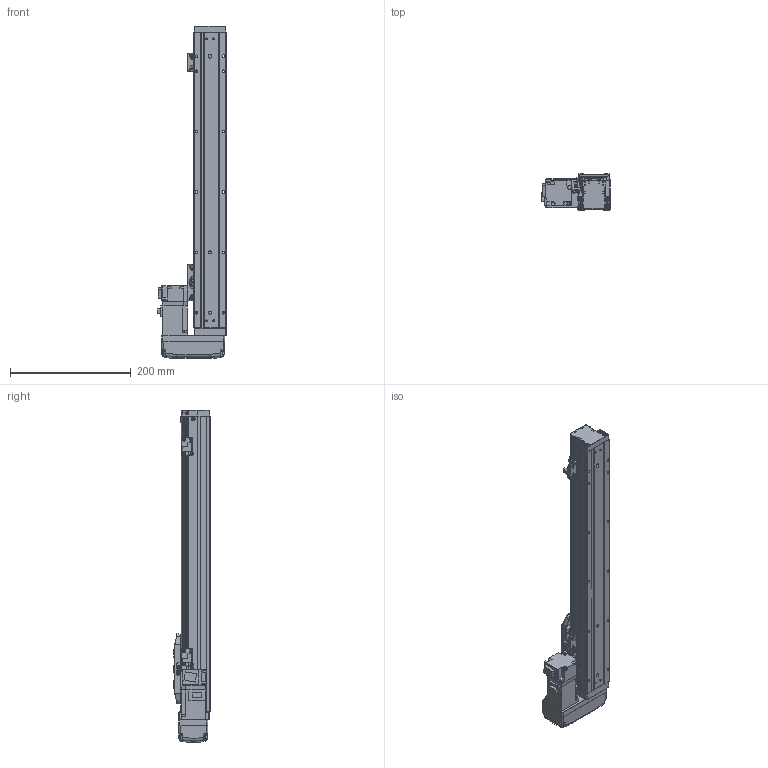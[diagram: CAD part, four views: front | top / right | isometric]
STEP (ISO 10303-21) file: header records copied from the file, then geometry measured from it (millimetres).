
FILE_DESCRIPTION (( 'STEP AP203' ), '1' );
FILE_NAME ('GTH5-350-BL-M10-C4.step', '2022-09-23T00:44:10', ( '微软用户' ), ( '微软中国' ), 'SwSTEP 2.0', 'SolidWorks 2020', '' );
FILE_SCHEMA (( 'CONFIG_CONTROL_DESIGN' ));
Length unit declared in the file: millimetre
Products named in the file (19): GTH50-027-1_BTHA50-027-2; GTH50-001_350; GTH50-024; GTH50-026; GBT 70.1-M4×16; GBT 70.1-M2.5×6; GTH5-350-BL-M10-C4; GTH50-003; GTH50-028; GTH50-006; GTH50-013; GTH50-022-1; GTH50-004; GTH50-023; HG-KR13; GBT 70.3-M3℅6; GBT 70.1-M3℅6; BTH-M3X5X6; GBT96.1-2002 3×0.8
Assembly tree (57 placements, depth 2):
  GTH5-350-BL-M10-C4
    GTH50-006
    GTH50-004
    GBT 70.3-M3℅6  x4
    BTH-M3X5X6  x8
    GTH50-001_350
    GBT 70.1-M4×16  x8
    GTH50-003
    GTH50-013
    GTH50-023  x3
    GBT 70.1-M3℅6  x12
    GBT96.1-2002 3×0.8  x6
    GTH50-024  x3
    GBT 70.1-M2.5×6  x2
    GTH50-028  x2
    GTH50-022-1
    HG-KR13
    GTH50-027-1_BTHA50-027-2
    GTH50-026
Bounding box: 113.8 x 60 x 550 mm (x, y, z)
Volume: 1305560 mm3; surface area: 244127.6 mm2
Topology: 59 solids, 59 shells, 2152 faces, 4992 edges, 3060 vertices
Faces by surface type: plane 1142, cylinder 581, cone 219, torus 162, bspline 40, sphere 8
Entity records: 39864 total; most frequent: CARTESIAN_POINT 7899, DIRECTION 6129, ORIENTED_EDGE 5898, EDGE_CURVE 2949, AXIS2_PLACEMENT_3D 2128, LINE 1873, VECTOR 1873, VERTEX_POINT 1862
